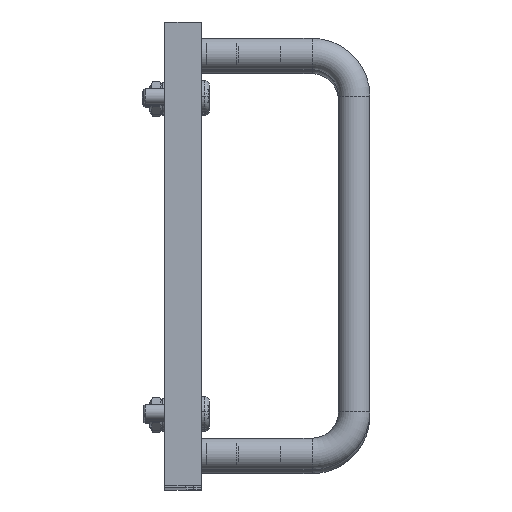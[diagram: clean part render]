
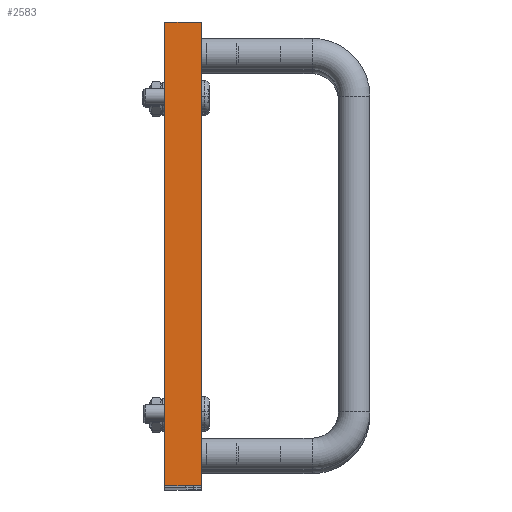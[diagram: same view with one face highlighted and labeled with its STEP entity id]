
A CAD part, top view. The second image highlights one B-rep face of the part: STEP entity #2583.
In plain terms, the highlighted planar face has unit normal (0, 0, 1) as drawn and (0, -1, 0) by its records, which use the part's own axes.
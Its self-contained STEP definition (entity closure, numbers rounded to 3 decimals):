
#309=LINE('',#4071,#464);
#315=LINE('',#4082,#470);
#322=LINE('',#4096,#477);
#323=LINE('',#4098,#478);
#464=VECTOR('',#3298,88.1);
#470=VECTOR('',#3306,7.);
#477=VECTOR('',#3319,88.1);
#478=VECTOR('',#3322,7.);
#771=FACE_OUTER_BOUND('',#993,.T.);
#993=EDGE_LOOP('',(#2016,#2017,#2018,#2019));
#1334=VERTEX_POINT('',#4068);
#1335=VERTEX_POINT('',#4070);
#1339=VERTEX_POINT('',#4080);
#1343=VERTEX_POINT('',#4094);
#1581=EDGE_CURVE('',#1335,#1334,#309,.T.);
#1587=EDGE_CURVE('',#1334,#1339,#315,.T.);
#1594=EDGE_CURVE('',#1343,#1339,#322,.T.);
#1595=EDGE_CURVE('',#1343,#1335,#323,.T.);
#2016=ORIENTED_EDGE('',*,*,#1595,.T.);
#2017=ORIENTED_EDGE('',*,*,#1581,.T.);
#2018=ORIENTED_EDGE('',*,*,#1587,.T.);
#2019=ORIENTED_EDGE('',*,*,#1594,.F.);
#2455=PLANE('',#2814);
#2583=ADVANCED_FACE('',(#771),#2455,.T.);
#2814=AXIS2_PLACEMENT_3D('',#4097,#3320,#3321);
#3298=DIRECTION('',(0.,0.,-1.));
#3306=DIRECTION('',(1.,0.,0.));
#3319=DIRECTION('',(0.,0.,-1.));
#3320=DIRECTION('center_axis',(0.,-1.,0.));
#3321=DIRECTION('ref_axis',(0.,0.,-1.));
#3322=DIRECTION('',(-1.,0.,0.));
#4068=CARTESIAN_POINT('',(-3.5,-17.5,-44.05));
#4070=CARTESIAN_POINT('',(-3.5,-17.5,44.05));
#4071=CARTESIAN_POINT('',(-3.5,-17.5,0.));
#4080=CARTESIAN_POINT('',(3.5,-17.5,-44.05));
#4082=CARTESIAN_POINT('',(3.5,-17.5,-44.05));
#4094=CARTESIAN_POINT('',(3.5,-17.5,44.05));
#4096=CARTESIAN_POINT('',(3.5,-17.5,0.));
#4097=CARTESIAN_POINT('Origin',(3.5,-17.5,0.));
#4098=CARTESIAN_POINT('',(3.5,-17.5,44.05));
